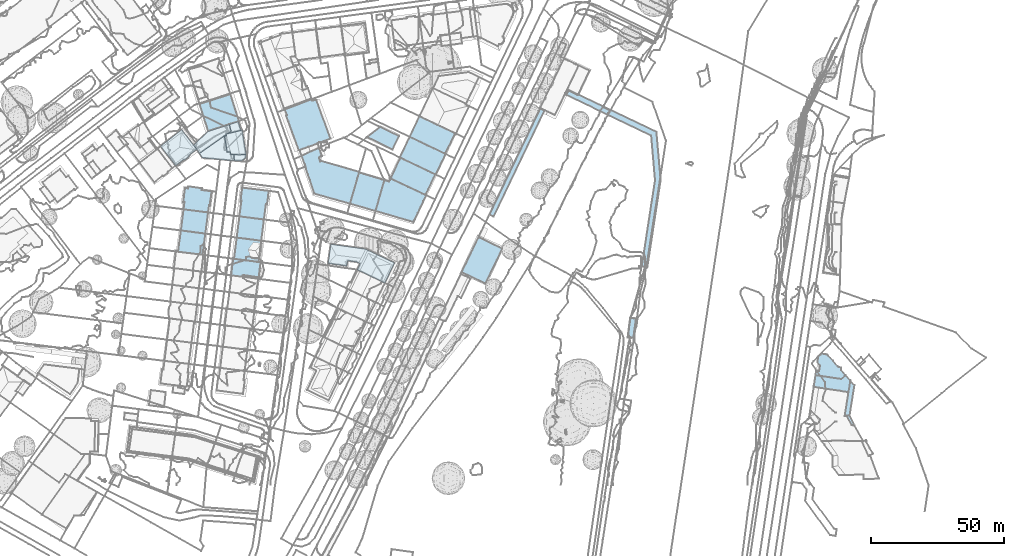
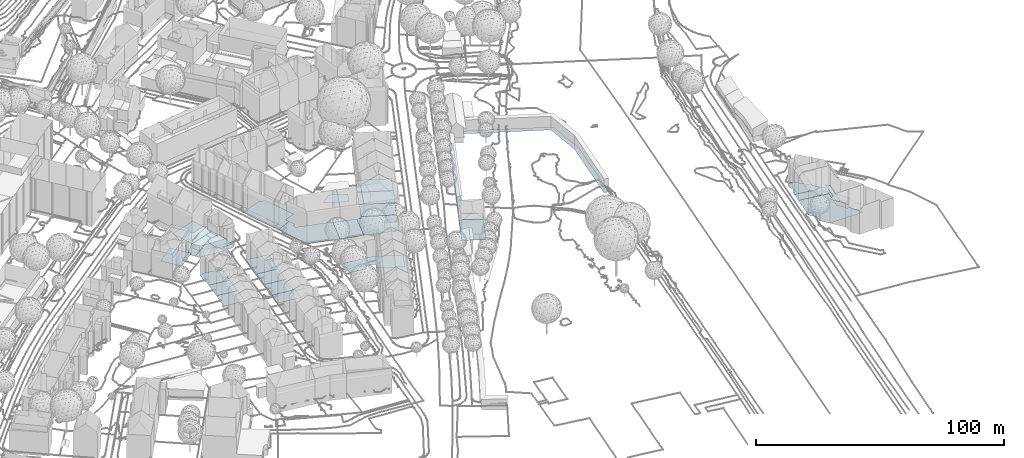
# Not in any storey, part 10 of 477: 26 footings.
"""IFC4 building model written with IfcOpenShell, lengths in metres."""

from ifc_helpers import new_model, si_unit, frame, origin_with_axes, place, context, subcontext, project, spatial, polygons, element, save


model = new_model("IFC4")

# Units and contexts
model_context = context("Model", 3, precision=1e-05, world=origin_with_axes())
body_context = subcontext(model_context, "Body", "Model", "MODEL_VIEW")
ifc_project = project(units=[si_unit("AREAUNIT", "SQUARE_METRE"), si_unit("LENGTHUNIT", "METRE")], contexts=[model_context])

# Sites, building
site_1_placement = place(None, origin_with_axes())
site_1 = spatial("IfcSite", under=ifc_project, at=site_1_placement, Name="Topoexport Site")
site_2_placement = place(site_1_placement, origin_with_axes())
site_2 = spatial("IfcSite", under=site_1, at=site_2_placement, Name="TPX_BUILDINGS")
building_1_placement = place(site_2_placement, frame((512.0047320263, 129.124816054, 499.5905), z_axis=(0.0, 0.0, 1.0), x_axis=(1.0, 0.0, 0.0)))
building_1 = spatial("IfcBuilding", under=site_2, at=building_1_placement, Name="Building 8", CompositionType="ELEMENT")

# Footing
footing_1_placement = place(None, frame((512.0047320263, 129.124816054, 499.5905), z_axis=(0.0, 0.0, 1.0), x_axis=(1.0, 0.0, 0.0)))
element("IfcFooting", 1, at=footing_1_placement, inside=building_1, Name="Floor 0", context=body_context, shape_type="Tessellation", body=[
    polygons([(9.5069999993, -4.7080000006, 0.0), (4.8489999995, 3.7899999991, 0.0), (11.9589999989, 0.3251999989, 0.0), (0.0, 0.0, 0.0)], [[[1, 2, 3]], [[2, 1, 4]]]),
])

# Building
building_2_placement = place(site_2_placement, frame((497.3297320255, 81.7703160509, 498.9665), z_axis=(0.0, 0.0, 1.0), x_axis=(1.0, 0.0, 0.0)))
building_2 = spatial("IfcBuilding", under=site_2, at=building_2_placement, Name="Building 13", CompositionType="ELEMENT")

# Footing
footing_2_placement = place(None, frame((497.3297320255, 81.7703160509, 498.9665), z_axis=(0.0, 0.0, 1.0), x_axis=(1.0, 0.0, 0.0)))
element("IfcFooting", 2, at=footing_2_placement, inside=building_2, Name="Floor 0", context=body_context, shape_type="Tessellation", body=[
    polygons([(12.9900000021, 5.6045000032, 0.0), (0.0540000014, -0.0067999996, 0.0), (0.9920000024, 6.9697000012, 0.0), (7.3410000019, 1.0186000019, 0.0), (9.7280000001, 0.6963, 0.0), (10.5109999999, 0.5908000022, 0.0), (14.6390000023, 5.1670000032, 0.0), (11.5160000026, 0.1104000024, 0.0), (7.319000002, 0.8516000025, 0.0), (10.9480000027, -2.369099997, 0.0), (11.9830000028, -0.1132999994, 0.0), (11.2479999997, -2.5136999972, 0.0), (10.9070000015, -2.3632999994, 0.0), (1.0340000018, 7.2675999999, 0.0), (21.8530000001, 1.7226999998, 0.0), (14.0270000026, 5.4600000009, 0.0), (16.2129999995, -4.8993999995, 0.0), (11.9240000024, -2.8388999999, 0.0), (24.9849999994, 0.2266000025, 0.0), (21.3509999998, -7.369099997, 0.0), (20.6960000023, -7.0546999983, 0.0), (6.9140000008, -0.931599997, 0.0), (7.075000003, -0.9530999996, 0.0), (0.0, 0.0, 0.0), (0.5650000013, 3.9726999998, 0.0)], [[[1, 2, 3]], [[2, 1, 4]], [[5, 1, 6]], [[1, 5, 4]], [[7, 8, 6]], [[9, 2, 4]], [[10, 11, 12]], [[11, 10, 13]], [[3, 14, 1]], [[8, 7, 15]], [[7, 1, 16]], [[15, 11, 8]], [[17, 18, 11]], [[11, 19, 17]], [[18, 12, 11]], [[19, 20, 21]], [[21, 17, 19]], [[15, 19, 11]], [[6, 1, 7]], [[22, 2, 9]], [[9, 23, 22]], [[24, 25, 2]], [[3, 2, 25]]]),
])

# Building
building_3_placement = place(site_2_placement, frame((211.8297320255, 101.9383160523, 526.7541), z_axis=(0.0, 0.0, 1.0), x_axis=(1.0, 0.0, 0.0)))
building_3 = spatial("IfcBuilding", under=site_2, at=building_3_placement, Name="Building 18", CompositionType="ELEMENT")

# Footings
footing_3_placement = place(None, frame((211.8297320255, 101.9383160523, 526.7541), z_axis=(0.0, 0.0, 1.0), x_axis=(1.0, 0.0, 0.0)))
element("IfcFooting", 3, at=footing_3_placement, inside=building_3, Name="Floor 1", context=body_context, shape_type="Tessellation", body=[
    polygons([(365.1730000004, 37.7998000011, -27.0467), (366.694000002, 37.0703000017, -27.0467), (346.1209999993, -1.9257999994, -27.0467), (347.6410000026, -2.6543000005, -27.0467)], [[[1, 2, 3]], [[4, 3, 2]]]),
])
footing_4_placement = place(None, frame((211.8297320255, 101.9383160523, 526.7541), z_axis=(0.0, 0.0, 1.0), x_axis=(1.0, 0.0, 0.0)))
element("IfcFooting", 4, at=footing_4_placement, inside=building_3, Name="Floor 2", context=body_context, shape_type="Tessellation", body=[
    polygons([(408.7730000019, 29.1035000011, -28.8735), (406.7970000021, 27.7353000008, -28.8735), (375.8690000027, 44.8456999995, -28.8735), (374.9690000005, 42.9638000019, -28.8735), (410.3399999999, 11.0537, -28.8735), (405.325000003, -21.6757999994, -28.8735), (408.2400000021, 11.121100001, -28.8735), (403.262000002, -21.3594000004, -28.8735)], [[[1, 2, 3]], [[4, 3, 2]], [[5, 2, 1]], [[5, 6, 7]], [[7, 2, 5]], [[8, 7, 6]]]),
])

# Building
building_4_placement = place(site_2_placement, frame((547.5007320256, 78.432416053, 499.3594), z_axis=(0.0, 0.0, 1.0), x_axis=(1.0, 0.0, 0.0)))
building_4 = spatial("IfcBuilding", under=site_2, at=building_4_placement, Name="Building 23", CompositionType="ELEMENT")

# Footing
footing_5_placement = place(None, frame((547.5007320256, 78.432416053, 499.3594), z_axis=(0.0, 0.0, 1.0), x_axis=(1.0, 0.0, 0.0)))
element("IfcFooting", 5, at=footing_5_placement, inside=building_4, Name="Floor 0", context=body_context, shape_type="Tessellation", body=[
    polygons([(6.2900000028, 13.1523999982, 0.0), (8.9040000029, -4.2802000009, 0.0), (0.0, 0.0, 0.0), (12.6610000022, 3.5390999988, 0.0), (9.6669999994, 11.5263999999, 0.0), (15.2149999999, 8.8554999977, 0.0)], [[[1, 2, 3]], [[1, 4, 2]], [[4, 1, 5]], [[4, 5, 6]]]),
])

# Building
building_5_placement = place(site_2_placement, frame((440.3257320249, 86.1922160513, 499.5705), z_axis=(0.0, 0.0, 1.0), x_axis=(1.0, 0.0, 0.0)))
building_5 = spatial("IfcBuilding", under=site_2, at=building_5_placement, Name="Building 45", CompositionType="ELEMENT")

# Footing
footing_6_placement = place(None, frame((440.3257320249, 86.1922160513, 499.5705), z_axis=(0.0, 0.0, 1.0), x_axis=(1.0, 0.0, 0.0)))
element("IfcFooting", 6, at=footing_6_placement, inside=building_5, Name="Floor 0", context=body_context, shape_type="Tessellation", body=[
    polygons([(0.0, 0.0, 0.0), (0.814000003, 0.1484000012, 0.0), (1.5620000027, -0.1963, 0.0), (0.8420000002, 0.3535000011, 0.0), (0.0300000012, 0.2432000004, 0.0), (5.3150000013, -0.6659999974, 0.0), (10.3030000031, -1.0713, 0.0), (10.2780000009, -1.2870999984, 0.0), (10.006000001, -1.0321999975, 0.0), (6.4160000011, 7.2919999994, 0.0), (1.8550000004, 7.876000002, 0.0), (11.0130000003, 6.7030999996, 0.0), (10.7250000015, 4.4932000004, 0.0)], [[[1, 2, 3]], [[4, 3, 2]], [[2, 1, 5]], [[3, 4, 6]], [[7, 8, 9]], [[8, 6, 9]], [[10, 6, 4]], [[11, 10, 4]], [[10, 12, 13]], [[13, 9, 10]], [[6, 10, 9]]]),
])

# Building
building_6_placement = place(site_2_placement, frame((442.1807320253, 94.0682160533, 499.5705), z_axis=(0.0, 0.0, 1.0), x_axis=(1.0, 0.0, 0.0)))
building_6 = spatial("IfcBuilding", under=site_2, at=building_6_placement, Name="Building 46", CompositionType="ELEMENT")

# Footing
footing_7_placement = place(None, frame((442.1807320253, 94.0682160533, 499.5705), z_axis=(0.0, 0.0, 1.0), x_axis=(1.0, 0.0, 0.0)))
element("IfcFooting", 7, at=footing_7_placement, inside=building_6, Name="Floor 0", context=body_context, shape_type="Tessellation", body=[
    polygons([(4.5610000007, -0.5840000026, 0.0), (10.1900000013, 6.7645999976, 0.0), (9.1579999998, -1.1729000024, 0.0), (0.0, 0.0, 0.0), (0.8680000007, 6.8993999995, 0.0), (0.9990000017, 7.9422999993, 0.0), (5.6590000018, 7.3456999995, 0.0)], [[[1, 2, 3]], [[4, 5, 1]], [[6, 7, 5]], [[7, 2, 1]], [[1, 5, 7]]]),
])

# Building
building_7_placement = place(site_2_placement, frame((443.0627320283, 104.7566160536, 499.5705), z_axis=(0.0, 0.0, 1.0), x_axis=(1.0, 0.0, 0.0)))
building_7 = spatial("IfcBuilding", under=site_2, at=building_7_placement, Name="Building 49", CompositionType="ELEMENT")

# Footing
footing_8_placement = place(None, frame((443.0627320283, 104.7566160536, 499.5705), z_axis=(0.0, 0.0, 1.0), x_axis=(1.0, 0.0, 0.0)))
element("IfcFooting", 8, at=footing_8_placement, inside=building_7, Name="Floor 0", context=body_context, shape_type="Tessellation", body=[
    polygons([(0.3299999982, 2.6259999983, 0.0), (0.6629999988, 5.2744999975, 0.0), (1.743999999, 5.1367999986, 0.0), (6.9019999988, 4.4824999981, 0.0), (0.4549999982, -0.0566000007, 0.0), (0.0, 0.0, 0.0), (4.7769999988, -3.3427000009, 0.0), (0.4339999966, -0.2275000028, 0.0), (0.2919999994, -1.3553999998, 0.0), (0.1169999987, -2.746100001, 0.0), (1.8369999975, 5.8720999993, 0.0), (6.987999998, 5.1581999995, 0.0), (7.9679999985, 4.3456999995, 0.0), (10.2789999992, 1.178799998, 0.0), (10.6379999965, 4.0068999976, 0.0), (10.3859999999, 2.0244999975, 0.0), (9.498999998, 4.1523999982, 0.0), (9.6659999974, -1.1816000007, 0.0), (9.3079999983, -3.9238000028, 0.0), (9.9739999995, -1.2206999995, 0.0)], [[[1, 2, 3]], [[1, 3, 4]], [[5, 6, 1]], [[5, 4, 7]], [[8, 7, 9]], [[10, 9, 7]], [[5, 7, 8]], [[5, 1, 4]], [[11, 12, 3]], [[4, 13, 14]], [[4, 3, 12]], [[15, 16, 17]], [[13, 17, 16]], [[16, 14, 13]], [[7, 18, 19]], [[20, 18, 14]], [[14, 18, 4]], [[7, 4, 18]]]),
])

# Building
building_8_placement = place(site_2_placement, frame((461.8007320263, 83.4783160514, 499.4055), z_axis=(0.0, 0.0, 1.0), x_axis=(1.0, 0.0, 0.0)))
building_8 = spatial("IfcBuilding", under=site_2, at=building_8_placement, Name="Building 54", CompositionType="ELEMENT")

# Footing
footing_9_placement = place(None, frame((461.8007320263, 83.4783160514, 499.4055), z_axis=(0.0, 0.0, 1.0), x_axis=(1.0, 0.0, 0.0)))
element("IfcFooting", 9, at=footing_9_placement, inside=building_8, Name="Floor 0", context=body_context, shape_type="Tessellation", body=[
    polygons([(5.9039999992, 7.3311000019, 0.0), (1.0560000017, 5.8027999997, 0.0), (4.6160000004, 7.4951000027, 0.0), (4.9730000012, -0.6435000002, 0.0), (0.4750000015, 1.2061000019, 0.0), (1.3229999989, 7.9131000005, 0.0), (0.2290000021, 0.2237000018, 0.0), (0.0, 0.0, 0.0), (0.0320000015, 0.2481000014, 0.0), (9.5230000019, -0.9912, 0.0), (10.504999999, 6.7481000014, 0.0), (10.3080000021, -1.0936999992, 0.0), (10.2780000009, -1.3319999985, 0.0), (9.0280000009, -1.1699000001, 0.0), (0.3489999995, 0.2071000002, 0.0), (0.7069999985, -0.0918000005, 0.0)], [[[1, 2, 3]], [[4, 5, 1]], [[3, 2, 6]], [[7, 8, 9]], [[5, 2, 1]], [[10, 1, 11]], [[12, 13, 10]], [[1, 10, 4]], [[14, 10, 13]], [[14, 4, 10]], [[8, 7, 15]], [[16, 8, 15]], [[5, 16, 15]], [[16, 5, 4]]]),
])

# Building
building_9_placement = place(site_2_placement, frame((463.1237320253, 91.3914160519, 499.4055), z_axis=(0.0, 0.0, 1.0), x_axis=(1.0, 0.0, 0.0)))
building_9 = spatial("IfcBuilding", under=site_2, at=building_9_placement, Name="Building 55", CompositionType="ELEMENT")

# Footing
footing_10_placement = place(None, frame((463.1237320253, 91.3914160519, 499.4055), z_axis=(0.0, 0.0, 1.0), x_axis=(1.0, 0.0, 0.0)))
element("IfcFooting", 10, at=footing_10_placement, inside=building_9, Name="Floor 0", context=body_context, shape_type="Tessellation", body=[
    polygons([(9.939000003, 4.8125, 0.0), (5.5230000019, 7.3867000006, 0.0), (10.1920000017, 6.8047000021, 0.0), (9.182, -1.1649999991, 0.0), (0.6810000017, 5.3896999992, 0.0), (1.6009999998, 7.875, 0.0), (1.0050000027, 7.9501999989, 0.0), (4.5810000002, -0.5810000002, 0.0), (3.2930000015, -0.4179999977, 0.0), (0.0, 0.0, 0.0)], [[[1, 2, 3]], [[4, 2, 1]], [[2, 5, 6]], [[7, 6, 5]], [[4, 8, 2]], [[5, 2, 8]], [[5, 9, 10]], [[8, 9, 5]]]),
])

# Building
building_10_placement = place(site_2_placement, frame((461.0127320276, 77.240016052, 499.4055), z_axis=(0.0, 0.0, 1.0), x_axis=(1.0, 0.0, 0.0)))
building_10 = spatial("IfcBuilding", under=site_2, at=building_10_placement, Name="Building 57", CompositionType="ELEMENT")

# Footing
footing_11_placement = place(None, frame((461.0127320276, 77.240016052, 499.4055), z_axis=(0.0, 0.0, 1.0), x_axis=(1.0, 0.0, 0.0)))
element("IfcFooting", 11, at=footing_11_placement, inside=building_10, Name="Floor 0", context=body_context, shape_type="Tessellation", body=[
    polygons([(5.0350000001, -0.6435000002, 0.0), (10.4829999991, 0.3027999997, 0.0), (9.4769999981, -1.2098999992, 0.0), (10.2780000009, -1.3125, 0.0), (0.3979999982, 3.1231000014, 0.0), (10.6799999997, 1.8603999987, 0.0), (10.7980000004, 2.7872000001, 0.0), (9.8159999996, 5.0683999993, 0.0), (11.0659999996, 4.9052999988, 0.0), (5.7609999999, 5.5947999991, 0.0), (0.1959999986, 1.5372000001, 0.0), (0.1349999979, -0.0185000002, 0.0), (0.6469999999, -0.0830000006, 0.0), (0.0, 0.0, 0.0), (0.6829999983, 5.3984999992, 0.0), (1.4949999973, 6.1464999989, 0.0), (0.7879999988, 6.2382999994, 0.0)], [[[1, 2, 3]], [[2, 4, 3]], [[2, 5, 6]], [[6, 5, 7]], [[8, 9, 7]], [[8, 7, 10]], [[11, 2, 1]], [[12, 11, 13]], [[2, 11, 5]], [[12, 14, 11]], [[10, 15, 16]], [[17, 16, 15]], [[10, 7, 15]], [[15, 7, 5]], [[1, 13, 11]]]),
])

# Building
building_11_placement = place(site_2_placement, frame((464.128732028, 99.3416160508, 499.4055), z_axis=(0.0, 0.0, 1.0), x_axis=(1.0, 0.0, 0.0)))
building_11 = spatial("IfcBuilding", under=site_2, at=building_11_placement, Name="Building 61", CompositionType="ELEMENT")

# Footing
footing_12_placement = place(None, frame((464.128732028, 99.3416160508, 499.4055), z_axis=(0.0, 0.0, 1.0), x_axis=(1.0, 0.0, 0.0)))
element("IfcFooting", 12, at=footing_12_placement, inside=building_11, Name="Floor 0", context=body_context, shape_type="Tessellation", body=[
    polygons([(0.430999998, 5.9570000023, 0.0), (0.7520000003, 8.501000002, 0.0), (0.7479999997, 5.9170000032, 0.0), (10.9979999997, 9.5762000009, 0.0), (1.0449999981, 10.818400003, 0.0), (0.129999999, 1.0313000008, 0.0), (4.5179999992, -0.5625, 0.0), (0.5969999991, -0.0741999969, 0.0), (0.0, 0.0, 0.0), (9.930999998, 4.7314000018, 0.0), (0.7329999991, 5.8018000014, 0.0), (10.7149999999, 7.3154000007, 0.0), (9.9120000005, 4.5830000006, 0.0), (10.3770000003, 4.6738000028, 0.0), (9.186999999, -1.1454999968, 0.0)], [[[1, 2, 3]], [[4, 2, 5]], [[2, 4, 3]], [[6, 7, 8]], [[6, 8, 9]], [[3, 10, 11]], [[11, 7, 6]], [[10, 3, 4]], [[4, 12, 10]], [[13, 11, 10]], [[12, 14, 10]], [[7, 13, 15]], [[13, 7, 11]]]),
])

# Building
building_12_placement = place(site_2_placement, frame((449.1887320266, 141.5721160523, 498.8726), z_axis=(0.0, 0.0, 1.0), x_axis=(1.0, 0.0, 0.0)))
building_12 = spatial("IfcBuilding", under=site_2, at=building_12_placement, Name="Building 71", CompositionType="ELEMENT")

# Footing
footing_13_placement = place(None, frame((449.1887320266, 141.5721160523, 498.8726), z_axis=(0.0, 0.0, 1.0), x_axis=(1.0, 0.0, 0.0)))
element("IfcFooting", 13, at=footing_13_placement, inside=building_12, Name="Floor 0", context=body_context, shape_type="Tessellation", body=[
    polygons([(2.0240000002, -6.3740999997, 0.0), (6.0689999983, -9.2782999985, 0.0), (3.2380000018, -10.1983000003, 0.0), (9.0929999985, -8.2949999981, 0.0), (12.9770000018, -0.7685999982, 0.0), (11.8139999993, -7.4111999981, 0.0), (14.7690000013, -6.4512000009, 0.0), (0.8090000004, -2.5498000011, 0.0), (5.8530000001, 1.8456999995, 0.0), (0.0, 0.0, 0.0), (11.5839999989, 3.6523000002, 0.0)], [[[1, 2, 3]], [[2, 1, 4]], [[4, 5, 6]], [[7, 6, 5]], [[8, 9, 1]], [[10, 9, 8]], [[11, 5, 9]], [[9, 5, 4]], [[4, 1, 9]]]),
])

# Building
building_13_placement = place(site_2_placement, frame((446.8647320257, 126.2293160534, 498.9746), z_axis=(0.0, 0.0, 1.0), x_axis=(1.0, 0.0, 0.0)))
building_13 = spatial("IfcBuilding", under=site_2, at=building_13_placement, Name="Building 73", CompositionType="ELEMENT")

# Footing
footing_14_placement = place(None, frame((446.8647320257, 126.2293160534, 498.9746), z_axis=(0.0, 0.0, 1.0), x_axis=(1.0, 0.0, 0.0)))
element("IfcFooting", 14, at=footing_14_placement, inside=building_13, Name="Floor 0", context=body_context, shape_type="Tessellation", body=[
    polygons([(13.9420000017, -3.5371000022, -0.04), (13.7829999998, -2.5303000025, -0.04), (17.2440000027, -3.6895000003, -0.04), (15.7310000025, 4.9726999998, -0.04), (19.0940000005, 0.5263999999, -0.04), (19.6130000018, -2.8115000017, -0.04), (19.637000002, -3.5371000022, -0.04), (19.3660000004, -1.2197000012, -0.04), (12.6410000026, -2.6982000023, -0.04), (12.3340000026, 3.4003999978, -0.04), (12.2060000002, 4.1317999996, -0.04), (18.8470000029, 2.1182000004, -0.04), (18.5840000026, 3.8134999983, -0.04), (18.3520000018, 5.3046999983, -0.04), (18.2550000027, 5.5810999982, -0.04), (11.5960000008, 3.2714999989, -0.04), (15.131000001, -3.5928000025, 0.4289), (16.5760000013, -5.9970999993, 0.4289), (15.2950000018, -5.7412, 0.4289), (15.5030000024, -5.9033000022, 0.4289), (17.2440000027, -3.6895000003, 0.4289), (19.637000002, -3.5371000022, 0.4289), (19.6750000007, -4.6504000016, 0.4289), (18.1380000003, -5.9580000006, 0.4289), (11.5960000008, 3.2714999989, 0.035), (2.2300000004, -3.1816000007, 0.035), (12.2490000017, 3.8838, 0.035), (12.3340000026, 3.4003999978, 0.035), (12.6410000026, -2.6982000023, 0.035), (13.9420000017, -3.5371000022, 0.035), (15.131000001, -3.5928000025, 0.035), (13.5, -5.8047000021, 0.035), (13.7829999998, -2.5303000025, 0.035), (15.3060000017, -5.8905999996, 0.035), (3.3000000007, -4.8496000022, 0.035), (12.8040000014, 4.2743999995, 0.0), (12.2060000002, 4.1317999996, 0.0), (14.074000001, 5.1688999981, 0.0), (13.4530000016, 7.7080000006, 0.0), (12.2490000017, 3.8838, 0.0), (2.2300000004, -3.1816000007, 0.0), (1.2530000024, -1.625, 0.0), (1.2600000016, -1.6699000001, 0.0), (0.0, 0.0, 0.0), (5.4290000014, 5.1015999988, 0.0), (16.7880000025, 8.7919999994, 0.035), (14.074000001, 5.1688999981, 0.035), (13.4530000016, 7.7080000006, 0.035), (15.7310000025, 4.9726999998, 0.035), (12.8040000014, 4.2743999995, 0.035), (17.8000000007, 5.4716999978, 0.035)], [[[1, 2, 3]], [[2, 4, 5]], [[2, 5, 3]], [[3, 6, 7]], [[3, 8, 6]], [[5, 8, 3]], [[9, 10, 2]], [[2, 10, 4]], [[4, 10, 11]], [[12, 5, 4]], [[4, 13, 12]], [[13, 4, 14]], [[14, 4, 15]], [[9, 16, 10]], [[17, 18, 19]], [[20, 19, 18]], [[21, 18, 17]], [[22, 23, 21]], [[24, 21, 23]], [[24, 18, 21]], [[25, 26, 27]], [[27, 28, 25]], [[26, 25, 29]], [[30, 31, 32]], [[29, 33, 30]], [[31, 34, 32]], [[32, 35, 29]], [[29, 30, 32]], [[35, 26, 29]], [[36, 37, 38]], [[37, 39, 38]], [[40, 41, 37]], [[37, 42, 39]], [[37, 43, 42]], [[42, 44, 45]], [[39, 42, 45]], [[37, 41, 43]], [[46, 47, 48]], [[47, 49, 50]], [[49, 47, 46]], [[51, 49, 46]]]),
])

# Building
building_14_placement = place(site_2_placement, frame((434.486732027, 125.7898160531, 500.0045), z_axis=(0.0, 0.0, 1.0), x_axis=(1.0, 0.0, 0.0)))
building_14 = spatial("IfcBuilding", under=site_2, at=building_14_placement, Name="Building 74", CompositionType="ELEMENT")

# Footing
footing_15_placement = place(None, frame((434.486732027, 125.7898160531, 500.0045), z_axis=(0.0, 0.0, 1.0), x_axis=(1.0, 0.0, 0.0)))
element("IfcFooting", 15, at=footing_15_placement, inside=building_14, Name="Floor 0", context=body_context, shape_type="Tessellation", body=[
    polygons([(2.6539999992, 2.0781999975, 0.0), (2.868999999, -3.6942999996, 0.0), (0.0, 0.0, 0.0), (7.9609999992, 6.2324999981, 0.0), (8.6070000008, -5.0859000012, 0.0), (10.6030000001, -3.941399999, 0.0), (9.0399999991, -5.1552000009, 0.0), (10.6440000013, -3.503899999, 0.0), (5.7010000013, -7.3418000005, 0.0), (13.631000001, -1.1854999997, 0.0), (13.4769999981, -1.3037, 0.0)], [[[1, 2, 3]], [[2, 4, 5]], [[6, 7, 5]], [[6, 5, 8]], [[5, 9, 2]], [[2, 1, 4]], [[4, 10, 11]], [[11, 8, 4]], [[5, 4, 8]]]),
])

# Building
building_15_placement = place(site_2_placement, frame((524.2867320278, 121.4578160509, 499.2035), z_axis=(0.0, 0.0, 1.0), x_axis=(1.0, 0.0, 0.0)))
building_15 = spatial("IfcBuilding", under=site_2, at=building_15_placement, Name="Building 121", CompositionType="ELEMENT")

# Footing
footing_16_placement = place(None, frame((524.2867320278, 121.4578160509, 499.2035), z_axis=(0.0, 0.0, 1.0), x_axis=(1.0, 0.0, 0.0)))
element("IfcFooting", 16, at=footing_16_placement, inside=building_15, Name="Floor 0", context=body_context, shape_type="Tessellation", body=[
    polygons([(15.7469999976, -1.5927999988, 0.0), (12.8429999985, 3.3662, 0.0), (17.1490000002, 1.3096000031, 0.0), (6.8169999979, -3.2597999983, 0.0), (10.5229999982, 4.4726999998, 0.0), (3.6799999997, 7.7393000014, 0.0), (7.3479999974, 5.9893000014, 0.0), (2.0700000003, 4.3526000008, 0.0), (10.5529999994, -5.0458999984, 0.0), (13.4179999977, -6.4159999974, 0.0), (14.4679999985, -4.2421999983, 0.0), (1.7060000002, -0.8173999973, 0.0), (0.0, 0.0, 0.0)], [[[1, 2, 3]], [[2, 4, 5]], [[6, 7, 8]], [[7, 5, 4]], [[2, 1, 9]], [[10, 9, 11]], [[2, 9, 4]], [[7, 4, 12]], [[13, 8, 12]], [[12, 8, 7]], [[11, 9, 1]]]),
])

# Building
building_16_placement = place(site_2_placement, frame((487.4747320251, 122.1688160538, 499.2035), z_axis=(0.0, 0.0, 1.0), x_axis=(1.0, 0.0, 0.0)))
building_16 = spatial("IfcBuilding", under=site_2, at=building_16_placement, Name="Building 122", CompositionType="ELEMENT")

# Footing
footing_17_placement = place(None, frame((487.4747320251, 122.1688160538, 499.2035), z_axis=(0.0, 0.0, 1.0), x_axis=(1.0, 0.0, 0.0)))
element("IfcFooting", 17, at=footing_17_placement, inside=building_16, Name="Floor 0", context=body_context, shape_type="Tessellation", body=[
    polygons([(3.2160000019, 1.4706999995, 0.0), (5.9079999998, 2.7010999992, 0.0), (7.1860000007, 1.240199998, 0.0), (6.4590000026, -0.6719000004, 0.0), (0.0, 0.0, 0.0), (6.6420000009, -1.1612000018, 0.0), (6.5460000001, 2.9930999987, 0.0), (7.126000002, -0.4288000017, 0.0), (7.2820000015, -0.2120000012, 0.0), (7.6860000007, -0.1328999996, 0.0), (7.2780000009, -0.3740999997, 0.0), (7.3110000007, -0.3624000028, 0.0), (0.5400000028, -1.4708000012, 0.0), (1.3260000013, -3.6094000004, 0.0), (1.2080000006, -3.2862000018, 0.0), (7.0080000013, -2.1328999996, 0.0), (6.8460000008, -1.7012000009, 0.0), (1.4980000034, -4.0782000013, 0.0), (1.5820000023, -4.8907000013, 0.0), (2.3440000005, -7.0665000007, 0.0), (1.319000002, -4.1387000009, 0.0), (3.0820000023, -9.1739000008, 0.0), (10.9340000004, -3.0225000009, 0.0), (3.8200000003, -11.2823000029, 0.0), (7.3830000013, -1.996100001, 0.0), (7.0620000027, -2.1143000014, 0.0), (11.8010000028, -16.2666000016, 0.0), (17.3110000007, -4.8663000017, 0.0), (21.5870000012, -6.1016000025, 0.0), (20.8560000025, -8.6416000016, 0.0), (7.995000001, -15.1963, 0.0), (6.6380000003, -14.8155000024, 0.0), (4.8840000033, -14.3213, 0.0), (4.5580000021, -13.389700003, 0.0), (18.7540000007, -15.9415000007, 0.0), (19.8289999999, -12.2071000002, 0.0), (18.1469999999, -18.0508000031, 0.0)], [[[1, 2, 3]], [[1, 4, 5]], [[4, 1, 3]], [[4, 6, 5]], [[7, 3, 2]], [[8, 4, 9]], [[3, 10, 9]], [[8, 9, 11]], [[12, 11, 9]], [[3, 9, 4]], [[6, 13, 5]], [[14, 15, 16]], [[17, 15, 13]], [[18, 16, 19]], [[16, 18, 14]], [[19, 16, 20]], [[19, 21, 18]], [[22, 20, 23]], [[24, 22, 23]], [[17, 16, 15]], [[17, 13, 6]], [[25, 23, 26]], [[26, 23, 16]], [[20, 16, 23]], [[24, 23, 27]], [[23, 28, 27]], [[28, 29, 30]], [[31, 24, 27]], [[31, 32, 24]], [[33, 34, 32]], [[34, 24, 32]], [[35, 27, 36]], [[37, 27, 35]], [[27, 28, 36]], [[30, 36, 28]]]),
])

# Building
building_17_placement = place(site_2_placement, frame((515.185732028, 101.369916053, 499.2035), z_axis=(0.0, 0.0, 1.0), x_axis=(1.0, 0.0, 0.0)))
building_17 = spatial("IfcBuilding", under=site_2, at=building_17_placement, Name="Building 124", CompositionType="ELEMENT")

# Footing
footing_18_placement = place(None, frame((515.185732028, 101.369916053, 499.2035), z_axis=(0.0, 0.0, 1.0), x_axis=(1.0, 0.0, 0.0)))
element("IfcFooting", 18, at=footing_18_placement, inside=building_17, Name="Floor 0", context=body_context, shape_type="Tessellation", body=[
    polygons([(14.7649999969, -2.9169999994, 0.0), (13.9199999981, -4.0254000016, 0.0), (15.8219999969, -0.7118999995, 0.0), (14.1959999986, -4.1053999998, 0.0), (16.8789999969, 1.4932000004, 0.0), (17.9349999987, 3.6972999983, 0.0), (17.3959999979, 6.6543000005, 0.0), (18.9919999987, 5.9023999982, 0.0), (4.1199999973, -1.191399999, 0.0), (1.6730000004, 5.8438000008, 0.0), (0.0, 0.0, 0.0), (1.1889999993, 4.1543000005, 0.0), (5.0989999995, 11.0850000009, 0.0), (5.6270000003, 12.1952999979, 0.0), (3.3249999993, 11.6152999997, 0.0)], [[[1, 2, 3]], [[1, 4, 2]], [[5, 3, 2]], [[6, 7, 8]], [[7, 5, 2]], [[6, 5, 7]], [[2, 9, 10]], [[11, 12, 9]], [[9, 12, 10]], [[7, 13, 14]], [[10, 15, 13]], [[10, 13, 7]], [[2, 10, 7]]]),
])

# Building
building_18_placement = place(site_2_placement, frame((520.8127320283, 113.5652160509, 499.2035), z_axis=(0.0, 0.0, 1.0), x_axis=(1.0, 0.0, 0.0)))
building_18 = spatial("IfcBuilding", under=site_2, at=building_18_placement, Name="Building 125", CompositionType="ELEMENT")

# Footing
footing_19_placement = place(None, frame((520.8127320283, 113.5652160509, 499.2035), z_axis=(0.0, 0.0, 1.0), x_axis=(1.0, 0.0, 0.0)))
element("IfcFooting", 19, at=footing_19_placement, inside=building_18, Name="Floor 0", context=body_context, shape_type="Tessellation", body=[
    polygons([(16.7569999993, 1.5411000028, 0.0), (15.1479999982, -1.8436999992, 0.0), (14.0269999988, 2.8467000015, 0.0), (6.5859999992, -3.1005999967, 0.0), (10.2909999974, 4.6328000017, 0.0), (0.9479999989, 1.9932000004, 0.0), (3.6999999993, 7.7842000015, 0.0), (5.1799999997, 7.0752000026, 0.0), (14.0909999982, -4.0653999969, 0.0), (13.0939999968, -6.1629999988, 0.0), (0.0, 0.0, 0.0)], [[[1, 2, 3]], [[3, 4, 5]], [[6, 7, 8]], [[6, 8, 5]], [[3, 2, 9]], [[3, 10, 4]], [[5, 4, 6]], [[6, 4, 11]], [[9, 10, 3]]]),
])

# Building
building_19_placement = place(site_2_placement, frame((505.6217320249, 104.1180160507, 499.2035), z_axis=(0.0, 0.0, 1.0), x_axis=(1.0, 0.0, 0.0)))
building_19 = spatial("IfcBuilding", under=site_2, at=building_19_placement, Name="Building 126", CompositionType="ELEMENT")

# Footing
footing_20_placement = place(None, frame((505.6217320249, 104.1180160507, 499.2035), z_axis=(0.0, 0.0, 1.0), x_axis=(1.0, 0.0, 0.0)))
element("IfcFooting", 20, at=footing_20_placement, inside=building_19, Name="Floor 0", context=body_context, shape_type="Tessellation", body=[
    polygons([(9.564000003, -2.7480999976, 0.0), (6.3370000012, -1.8213, 0.0), (10.7530000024, 1.4062000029, 0.0), (11.2370000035, 3.0957000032, 0.0), (11.9690000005, 9.1406000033, 0.0), (12.8890000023, 8.8672000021, 0.0), (9.8210000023, 9.7832000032, 0.0), (6.4030000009, 10.8027000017, 0.0), (1.682, 5.8437000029, 0.0), (3.9160000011, -1.125, 0.0), (0.6070000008, 2.1093000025, 0.0), (0.0, 0.0, 0.0), (3.3710000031, 11.7080000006, 0.0), (2.7090000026, 9.4091000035, 0.0)], [[[1, 2, 3]], [[2, 4, 3]], [[4, 5, 6]], [[5, 4, 7]], [[4, 8, 7]], [[2, 8, 4]], [[8, 2, 9]], [[10, 11, 9]], [[11, 10, 12]], [[13, 8, 14]], [[14, 8, 9]], [[2, 10, 9]]]),
])

# Building
building_20_placement = place(site_2_placement, frame((609.8397320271, 54.1307160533, 498.4355), z_axis=(0.0, 0.0, 1.0), x_axis=(1.0, 0.0, 0.0)))
building_20 = spatial("IfcBuilding", under=site_2, at=building_20_placement, Name="Building 170", CompositionType="ELEMENT")

# Footing
footing_21_placement = place(None, frame((609.8397320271, 54.1307160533, 498.4355), z_axis=(0.0, 0.0, 1.0), x_axis=(1.0, 0.0, 0.0)))
element("IfcFooting", 21, at=footing_21_placement, inside=building_20, Name="Floor 0", context=body_context, shape_type="Tessellation", body=[
    polygons([(2.9329999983, 6.873999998, 0.0), (2.5300000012, 2.9891999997, 0.0), (2.7509999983, 6.8993999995, 0.0), (3.0749999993, 6.8534999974, 0.0), (1.0089999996, 7.1455000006, 0.0), (2.068, -0.2822999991, 0.0), (0.3460000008, 2.4481999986, 0.0), (0.0669999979, -0.009800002, 0.0), (0.0, 0.0, 0.0)], [[[1, 2, 3]], [[2, 1, 4]], [[2, 5, 3]], [[6, 7, 2]], [[7, 6, 8]], [[5, 2, 7]], [[9, 7, 8]]]),
])

# Building
building_21_placement = place(site_2_placement, frame((677.9527320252, 24.5545160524, 498.9643), z_axis=(0.0, 0.0, 1.0), x_axis=(1.0, 0.0, 0.0)))
building_21 = spatial("IfcBuilding", under=site_2, at=building_21_placement, Name="Building 186", CompositionType="ELEMENT")

# Footing
footing_22_placement = place(None, frame((677.9527320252, 24.5545160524, 498.9643), z_axis=(0.0, 0.0, 1.0), x_axis=(1.0, 0.0, 0.0)))
element("IfcFooting", 22, at=footing_22_placement, inside=building_21, Name="Floor 0", context=body_context, shape_type="Tessellation", body=[
    polygons([(0.0, 0.0, 0.0), (0.7920000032, 5.2333999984, 0.0), (2.0090000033, -2.5703000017, 0.0), (13.25, -0.0331999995, 0.0), (2.0100000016, -3.6484000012, 0.0), (1.6420000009, 10.8427999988, 0.0), (3.4070000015, 10.5762000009, 0.0), (6.8360000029, -9.3916000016, 0.0), (2.0450000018, -5.8623000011, 0.0), (4.6590000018, -9.4189999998, 0.0), (5.2590000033, -9.4111000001, 0.0), (11.2930000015, 9.3838, 0.0), (14.6840000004, 8.871100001, 0.0), (14.0109999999, 0.004900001, 0.0), (15.8880000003, -3.5498000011, 0.0), (13.1760000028, -9.3145000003, 0.0), (16.9450000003, -3.5938000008, 0.0), (13.4460000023, -9.4814999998, 0.0), (13.444000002, -9.3115000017, 0.0), (19.5860000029, -9.4032999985, 0.0), (20.2259999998, -9.3955000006, 0.0), (16.9110000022, 11.4638999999, 1.5899), (15.0810000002, 0.191399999, 1.5898), (14.0109999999, 0.004900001, 1.5898), (13.25, -0.0331999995, 1.5898), (14.6840000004, 8.871100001, 1.5899), (15.3830000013, 13.2080000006, 1.5899), (15.8880000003, -3.5498000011, 1.7008), (15.0810000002, 0.191399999, 1.7008), (16.9450000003, -3.5938000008, 1.7008), (14.0109999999, 0.004900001, 1.7008)], [[[1, 2, 3]], [[4, 3, 2]], [[5, 3, 4]], [[2, 6, 7]], [[5, 8, 9]], [[10, 9, 11]], [[11, 9, 8]], [[5, 4, 8]], [[2, 7, 12]], [[4, 12, 13]], [[14, 15, 4]], [[16, 8, 4]], [[17, 18, 15]], [[15, 16, 4]], [[16, 15, 19]], [[19, 15, 18]], [[17, 20, 18]], [[21, 20, 17]], [[2, 12, 4]], [[22, 23, 24]], [[24, 25, 26]], [[27, 22, 26]], [[22, 24, 26]], [[28, 29, 30]], [[29, 28, 31]]]),
])

# Building
building_22_placement = place(site_2_placement, frame((680.2557320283, 39.7986160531, 498.9643), z_axis=(0.0, 0.0, 1.0), x_axis=(1.0, 0.0, 0.0)))
building_22 = spatial("IfcBuilding", under=site_2, at=building_22_placement, Name="Building 188", CompositionType="ELEMENT")

# Footing
footing_23_placement = place(None, frame((680.2557320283, 39.7986160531, 498.9643), z_axis=(0.0, 0.0, 1.0), x_axis=(1.0, 0.0, 0.0)))
element("IfcFooting", 23, at=footing_23_placement, inside=building_22, Name="Floor 0", context=body_context, shape_type="Tessellation", body=[
    polygons([(10.9210000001, -0.3857000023, 0.0), (10.6119999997, 0.7841999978, 0.0), (11.3259999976, -0.0322000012, 0.0), (9.6899999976, -1.4638000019, 0.0), (9.5399999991, 2.0088, 0.0), (1.3829999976, 1.6162, 0.0), (8.685999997, 2.9853999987, 0.0), (1.5139999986, 2.4882999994, 0.0), (8.3619999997, 3.3564999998, 0.0), (9.6009999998, 2.9239000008, 0.0), (4.7719999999, 7.4228999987, 0.0), (1.0839999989, 7.1327999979, 0.0), (4.1019999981, 7.8242999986, 0.0), (4.4139999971, 7.7773999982, 0.0), (1.685999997, 3.6415999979, 0.0), (6.5229999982, 5.4571000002, 0.0), (0.7249999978, 4.9512000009, 0.0), (0.6710000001, -0.1024999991, 0.0), (1.2390000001, 1.6367999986, 0.0), (0.7519999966, 1.7060999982, 0.0), (0.0169999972, 0.1103999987, 0.0), (0.2689999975, 1.7744999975, 0.0), (0.0, 0.0, 0.0), (2.3339999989, 8.0909000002, 0.0), (2.3129999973, 8.0742999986, 0.0)], [[[1, 2, 3]], [[1, 4, 2]], [[5, 6, 7]], [[8, 9, 7]], [[2, 4, 5]], [[10, 5, 7]], [[11, 12, 13]], [[14, 11, 13]], [[9, 15, 16]], [[17, 11, 16]], [[5, 4, 18]], [[6, 18, 19]], [[20, 19, 18]], [[8, 7, 6]], [[20, 18, 21]], [[20, 21, 22]], [[18, 23, 21]], [[9, 8, 15]], [[16, 15, 17]], [[24, 13, 25]], [[12, 25, 13]], [[17, 12, 11]], [[6, 5, 18]]]),
])

# Building
building_23_placement = place(site_2_placement, frame((679.5947320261, 35.3973160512, 498.9643), z_axis=(0.0, 0.0, 1.0), x_axis=(1.0, 0.0, 0.0)))
building_23 = spatial("IfcBuilding", under=site_2, at=building_23_placement, Name="Building 189", CompositionType="ELEMENT")

# Footing
footing_24_placement = place(None, frame((679.5947320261, 35.3973160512, 498.9643), z_axis=(0.0, 0.0, 1.0), x_axis=(1.0, 0.0, 0.0)))
element("IfcFooting", 24, at=footing_24_placement, inside=building_23, Name="Floor 0", context=body_context, shape_type="Tessellation", body=[
    polygons([(1.3320000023, 4.2988000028, 0.0), (0.376000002, 2.5, 0.0), (0.6610000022, 4.4013000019, 0.0), (1.7650000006, -0.2665999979, 0.0), (0.0749999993, 0.5, 0.0), (0.0, 0.0, 0.0), (9.6510000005, -1.4589999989, 0.0), (10.3509999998, 2.9375, 0.0), (11.5820000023, 4.0155999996, 0.0), (13.5800000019, 2.5498000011, 0.0), (11.9869999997, 4.3691000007, 0.0), (13.7410000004, 2.3652000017, 0.0), (13.0419999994, -1.9706999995, 0.0)], [[[1, 2, 3]], [[2, 4, 5]], [[6, 5, 4]], [[2, 7, 4]], [[1, 8, 2]], [[9, 10, 8]], [[10, 9, 11]], [[7, 12, 13]], [[7, 8, 12]], [[10, 12, 8]], [[7, 2, 8]]]),
])

# Building
building_24_placement = place(site_2_placement, frame((480.6997320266, 139.8172160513, 499.2146), z_axis=(0.0, 0.0, 1.0), x_axis=(1.0, 0.0, 0.0)))
building_24 = spatial("IfcBuilding", under=site_2, at=building_24_placement, Name="Building 195", CompositionType="ELEMENT")

# Footing
footing_25_placement = place(None, frame((480.6997320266, 139.8172160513, 499.2146), z_axis=(0.0, 0.0, 1.0), x_axis=(1.0, 0.0, 0.0)))
element("IfcFooting", 25, at=footing_25_placement, inside=building_24, Name="Floor 0", context=body_context, shape_type="Tessellation", body=[
    polygons([(5.9919999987, -15.5165999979, -0.0111), (7.4759999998, -14.9706999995, -0.0111), (6.2050000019, -16.0976999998, -0.0111), (6.7749999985, -17.6483999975, -0.0111), (11.2190000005, -15.6162, -0.0111), (9.3830000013, -14.3280999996, -0.0111), (12.7490000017, -13.0888999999, -0.0111), (12.6829999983, -14.9472999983, -0.0111), (13.3209999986, -14.6552999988, -0.0111), (13.1059999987, -14.0673999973, -0.0111), (12.0560000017, 3.2675999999, 0.0), (12.1079999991, 3.1220999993, 0.0), (10.6590000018, 3.0088, 0.0), (5.7789999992, 2.1064000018, 0.0), (10.3189999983, 3.754900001, 0.0), (17.5920000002, -11.2480999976, -0.0001), (12.3209999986, 3.2002000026, 0.0), (12.7259999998, -13.0243999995, -0.0001), (4.0760000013, 1.4844000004, 0.0), (1.818, -4.9560999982, 0.0), (1.2589999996, -2.4921999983, 0.0), (0.4580000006, -0.2939999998, 0.0), (0.0, 0.0, 0.0), (0.9589999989, -2.6024999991, 0.0), (0.1490000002, -0.4091999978, 0.0), (11.5080000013, -13.5458999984, -0.0001), (9.3830000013, -14.3280999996, -0.0001), (7.4759999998, -14.9706999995, -0.0001), (5.9919999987, -15.5165999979, -0.0001), (5.7100000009, -15.6171999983, -0.0001), (12.7490000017, -13.0888999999, -0.0001)], [[[1, 2, 3]], [[2, 4, 3]], [[2, 5, 4]], [[6, 5, 2]], [[6, 7, 5]], [[7, 8, 5]], [[9, 8, 10]], [[10, 8, 7]], [[11, 12, 13]], [[13, 14, 15]], [[16, 12, 17]], [[16, 13, 12]], [[13, 18, 14]], [[19, 20, 21]], [[19, 22, 23]], [[22, 19, 21]], [[21, 20, 24]], [[25, 23, 22]], [[19, 14, 26]], [[18, 13, 16]], [[20, 27, 28]], [[18, 26, 14]], [[27, 19, 26]], [[28, 29, 20]], [[30, 20, 29]], [[19, 27, 20]], [[31, 26, 18]]]),
])

# Building
building_25_placement = place(site_2_placement, frame((527.9667320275, 129.1980160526, 499.2035), z_axis=(0.0, 0.0, 1.0), x_axis=(1.0, 0.0, 0.0)))
building_25 = spatial("IfcBuilding", under=site_2, at=building_25_placement, Name="Building 196", CompositionType="ELEMENT")

# Footing
footing_26_placement = place(None, frame((527.9667320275, 129.1980160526, 499.2035), z_axis=(0.0, 0.0, 1.0), x_axis=(1.0, 0.0, 0.0)))
element("IfcFooting", 26, at=footing_26_placement, inside=building_25, Name="Floor 0", context=body_context, shape_type="Tessellation", body=[
    polygons([(3.6679999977, -1.7509000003, 0.0), (1.8379999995, 3.866299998, 0.0), (6.8429999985, -3.2675000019, 0.0), (0.0, 0.0, 0.0), (9.1629999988, -4.3740000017, 0.0), (13.4419999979, -6.1171000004, 0.0), (13.4690000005, -6.4305999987, 0.0), (13.5859999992, -6.1865000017, 0.0), (10.5439999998, 4.4580999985, 0.0), (11.4499999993, 4.0254000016, 0.0), (9.3049999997, 5.0489000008, 0.0), (3.675999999, 7.7324999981, 0.0), (16.9030000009, 1.1035999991, 0.0), (17.373999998, 1.1992999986, 0.0), (17.25, 0.9384999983, 0.0)], [[[1, 2, 3]], [[2, 1, 4]], [[5, 3, 6]], [[5, 6, 7]], [[8, 7, 6]], [[2, 9, 3]], [[9, 10, 6]], [[3, 9, 6]], [[11, 9, 2]], [[2, 12, 11]], [[13, 14, 15]], [[13, 10, 14]], [[10, 13, 6]]]),
])

save(model, "model.ifc")
